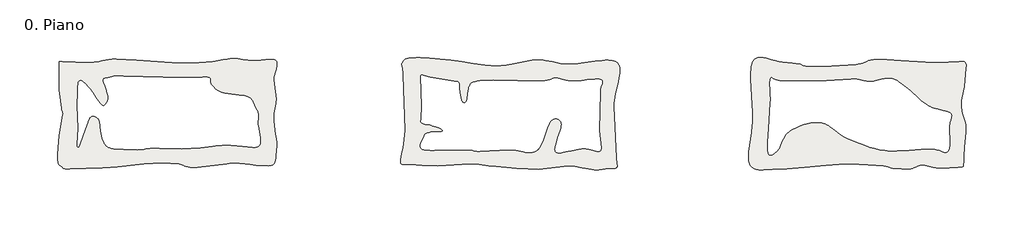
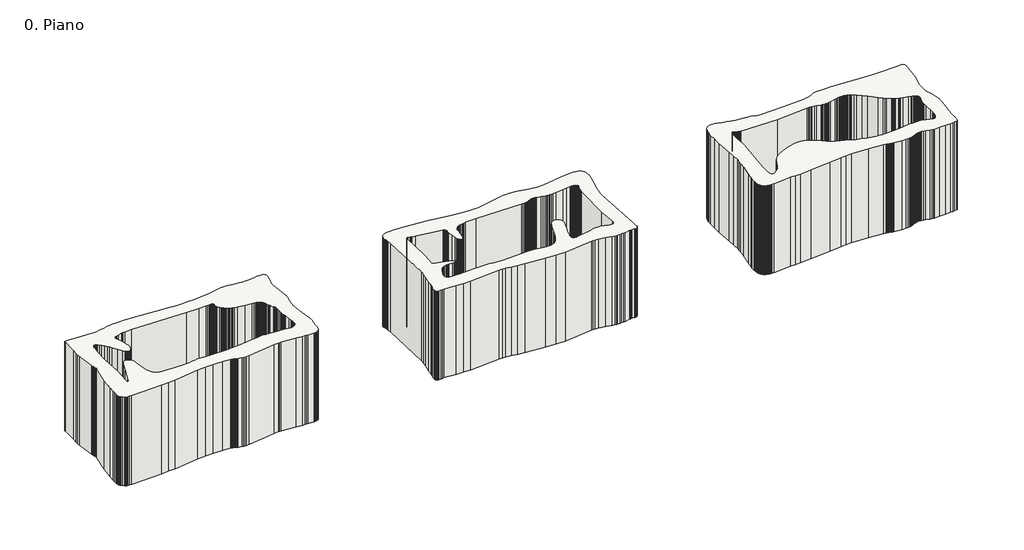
# One storey: 3 slabs.
"""IFC4 building model written with IfcOpenShell, lengths in millimetres."""

from ifc_helpers import new_model, si_unit, origin, place, context, project, spatial, transform, mapped, element, save
from components import tipo_generico_1_56dbb633, tipo_generico_2_deec6a79, tipo_generico_3_98846efd

model = new_model("IFC4")

# Units and contexts
model_context = context("Model", 3, world=origin())
ifc_project = project(units=[si_unit("LENGTHUNIT", "METRE", prefix="MILLI")], contexts=[model_context])

# Site, building, storey
site = spatial("IfcSite", under=ifc_project)
building = spatial("IfcBuilding", under=site)
storey = spatial("IfcBuildingStorey", under=building, Name="0. Piano", Elevation=0.0)

# Slabs
placement = place(None, origin())
tipo_generico_1_shape = tipo_generico_1_56dbb633(model_context)
element("IfcSlab", 1, ObjectType="Tipo Generico 1", at=placement, inside=storey, context=model_context, shape_type="MappedRepresentation", body=[
    mapped(tipo_generico_1_shape, transform((0.0, 0.0, 0.0), x_axis=(1.0, 0.0, 0.0), y_axis=(0.0, 1.0, 0.0), z_axis=(0.0, 0.0, 1.0))),
])
tipo_generico_2_shape = tipo_generico_2_deec6a79(model_context)
element("IfcSlab", 2, ObjectType="Tipo Generico 2", at=placement, inside=storey, context=model_context, shape_type="MappedRepresentation", body=[
    mapped(tipo_generico_2_shape, transform((0.0, 0.0, 0.0), x_axis=(1.0, 0.0, 0.0), y_axis=(0.0, 1.0, 0.0), z_axis=(0.0, 0.0, 1.0))),
])
tipo_generico_3_shape = tipo_generico_3_98846efd(model_context)
element("IfcSlab", 3, ObjectType="Tipo Generico 3", at=placement, inside=storey, context=model_context, shape_type="MappedRepresentation", body=[
    mapped(tipo_generico_3_shape, transform((0.0, 0.0, 0.0), x_axis=(1.0, 0.0, 0.0), y_axis=(0.0, 1.0, 0.0), z_axis=(0.0, 0.0, 1.0))),
])

save(model, "model.ifc")
